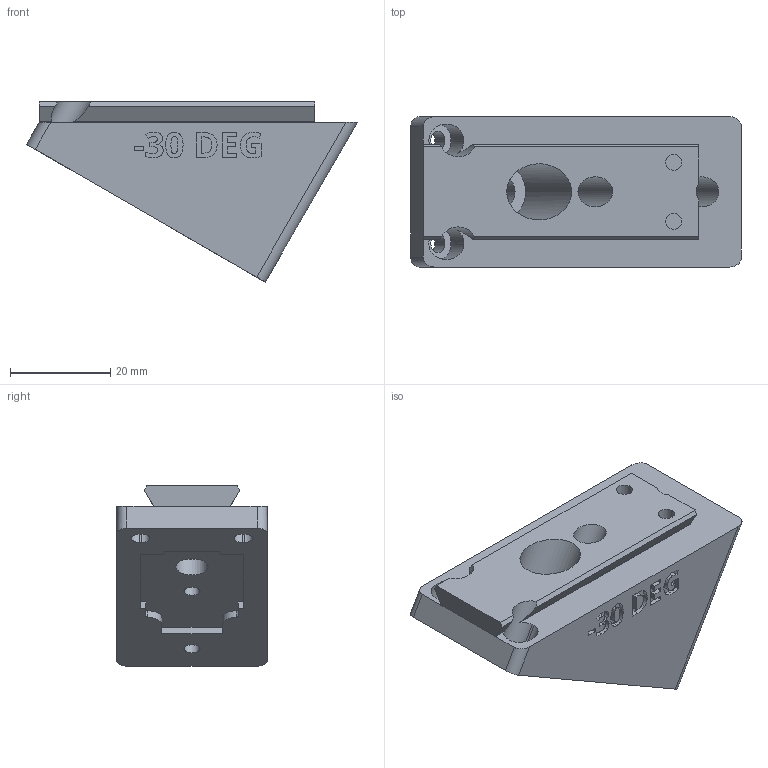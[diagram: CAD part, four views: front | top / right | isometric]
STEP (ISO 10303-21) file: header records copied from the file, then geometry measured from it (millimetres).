
FILE_DESCRIPTION(/* description */ ('STEP AP242 Edition 2','CAx-IF Rec.Pracs.---Representation and Presentation of Product Manufacturing Information (PMI)---4.0---2014-10-13','CAx-IF Rec.Pracs.---3D Tessellated Geometry---0.4---2014-09-14','2;1','CAx-IF Rec.Pracs.---User Defined Attributes---1.5---2016-08-15'),/* implementation_level */ '2;1');
FILE_NAME(/* name */ 'Camera Wedges - CAMERA MOUNTING WEDGE, NEG, -30 DEG',/* time_stamp */ '2026-07-08T20:36:24Z',/* author */ (''),/* organization */ (''),/* preprocessor_version */ 'ST-DEVELOPER v20',/* originating_system */ 'ONSHAPE BY PTC INC, 1.217',/* authorisation */ ' ');
FILE_SCHEMA (('AP242_MANAGED_MODEL_BASED_3D_ENGINEERING_MIM_LF { 1 0 10303 442 3 1 4 }'));
Length unit declared in the file: metre
Products named in the file (1): CAMERA MOUNTING WEDGE, NEG, -30 DEG
Bounding box: 66.03 x 30 x 35.97 mm (x, y, z)
Volume: 33831 mm3; surface area: 10014.6 mm2
Topology: 1 solids, 1 shells, 274 faces, 751 edges, 500 vertices
Faces by surface type: plane 136, bspline 96, cylinder 42
Full cylindrical faces by diameter (mm): 3.2 x4, 6 x2, 6.4 x1, 11.2 x1
Entity records: 8975 total; most frequent: CARTESIAN_POINT 2572, ORIENTED_EDGE 1484, DIRECTION 1007, EDGE_CURVE 742, VERTEX_POINT 499, LINE 451, VECTOR 451, EDGE_LOOP 313
